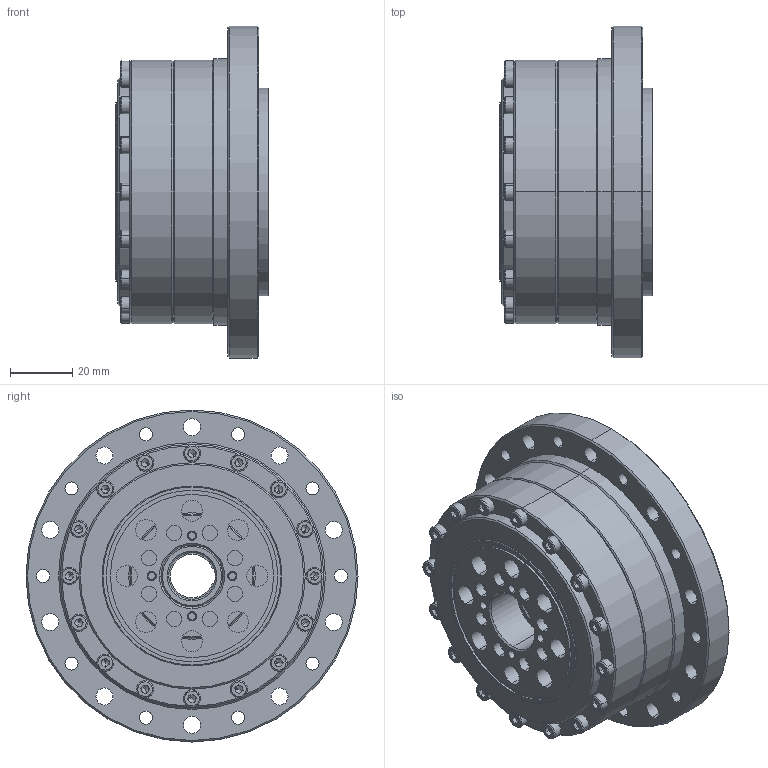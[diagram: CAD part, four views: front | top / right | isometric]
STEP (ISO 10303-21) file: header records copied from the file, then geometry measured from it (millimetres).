
FILE_DESCRIPTION(/* description */ (''),/* implementation_level */ '2;1');
FILE_NAME(/* name */ 'WCSG25-I-11_x_t.stp',/* time_stamp */ '2022-04-01T15:07:59+08:00',/* author */ (''),/* organization */ (''),/* preprocessor_version */ 'ST-DEVELOPER v16.7',/* originating_system */ 'SIEMENS PLM Software NX 12.0',/* authorisation */ '');
FILE_SCHEMA (('AUTOMOTIVE_DESIGN { 1 0 10303 214 3 1 1 1 }'));
Length unit declared in the file: millimetre
Products named in the file (35): 输入1_id225_x_t; 输入1_id206_x_t; 输入1_id171_x_t; 输入1_id156_x_t; 输入1_id151_x_t; 输入1_id146_x_t; 输入16_id141_x_t; 输入23_id136_x_t; 输入3_id131_x_t; 输入15_id126_x_t; 输入22_id121_x_t; 输入11_id116_x_t; 输入6_id111_x_t; 输入13_id106_x_t; 输入21_id101_x_t; 输入12_id96_x_t; 输入2_id91_x_t; 输入20_id86_x_t; 输入14_id81_x_t; 输入10_id76_x_t; 输入5_id71_x_t; 输入19_id66_x_t; 输入1_id61_x_t; 输入7_id56_x_t; 输入24_id51_x_t; 输入18_id46_x_t; 输入25_id41_x_t; 输入4_id36_x_t; 输入8_id31_x_t; 输入17_id26_x_t; 输入9_id21_x_t; 输入1_id16_x_t; 输入1_id11_x_t; 输入1_id6_x_t; WCSG25-I-11_x_t
Assembly tree (61 placements, depth 2):
  WCSG25-I-11_x_t
    输入1_id6_x_t
    输入1_id11_x_t
    输入1_id16_x_t
    输入9_id21_x_t
    输入17_id26_x_t
    输入8_id31_x_t
    输入4_id36_x_t
    输入25_id41_x_t
    输入18_id46_x_t
    输入24_id51_x_t
    输入7_id56_x_t
    输入1_id61_x_t
    输入19_id66_x_t
    输入5_id71_x_t
    输入10_id76_x_t
    输入14_id81_x_t
    输入20_id86_x_t
    输入2_id91_x_t
    输入12_id96_x_t
    输入21_id101_x_t
    输入13_id106_x_t
    输入6_id111_x_t
    输入11_id116_x_t
    输入22_id121_x_t
    输入15_id126_x_t
    输入3_id131_x_t
    输入23_id136_x_t
    输入16_id141_x_t
    输入1_id146_x_t
    输入1_id151_x_t
    输入1_id156_x_t  x6
    输入1_id171_x_t  x16
    输入1_id206_x_t  x8
    输入1_id225_x_t
Bounding box: 49 x 107 x 107 mm (x, y, z)
Volume: 204166.9 mm3; surface area: 109253 mm2
Topology: 61 solids, 61 shells, 1323 faces, 3200 edges, 1957 vertices
Faces by surface type: plane 457, cylinder 444, cone 300, torus 74, sphere 46, bspline 2
Entity records: 25864 total; most frequent: CARTESIAN_POINT 5548, DIRECTION 4405, ORIENTED_EDGE 3494, AXIS2_PLACEMENT_3D 1881, EDGE_CURVE 1747, VERTEX_POINT 1122, CIRCLE 1088, EDGE_LOOP 953
